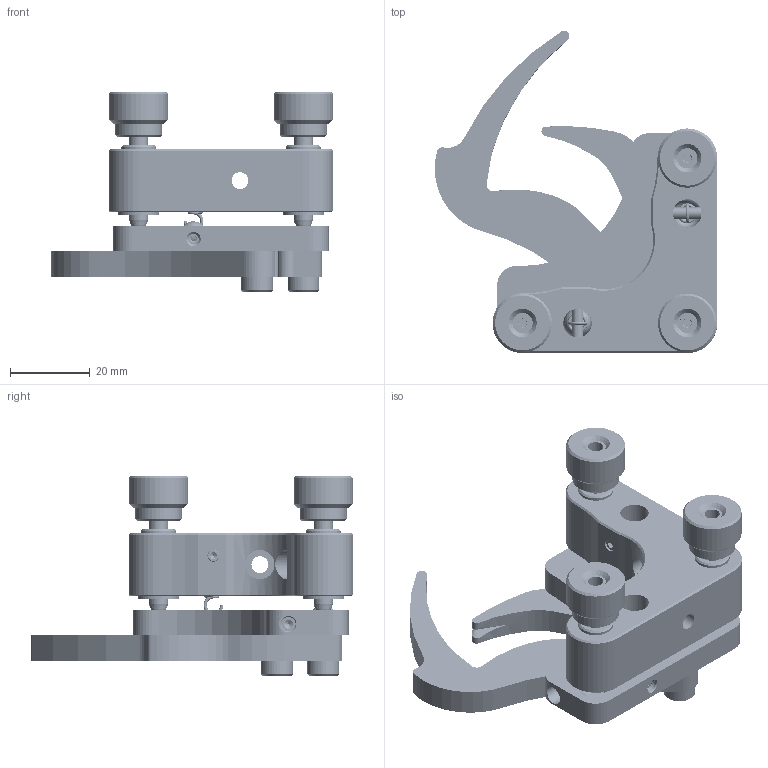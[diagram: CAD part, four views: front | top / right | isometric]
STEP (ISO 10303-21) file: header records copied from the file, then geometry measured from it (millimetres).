
FILE_DESCRIPTION((''),'2;1');
FILE_NAME('TOC-X_ASM','2021-01-09T',('Administrator'),(''),'CREO PARAMETRIC BY PTC INC, 2015290','CREO PARAMETRIC BY PTC INC, 2015290','');
FILE_SCHEMA(('CONFIG_CONTROL_DESIGN'));
Products named in the file (14): TOC-X_A1; TOC-X_A2; TOC-X_A3; TOC-X_A4; TOC-X_A5; SCREW_M5X21; M4X14_HS; M3X14_HS; SCREW_M5X10; TOC-X_A6; SPRING_5X15; SPRING_3X20; SPACER_3X0_5; TOC-X_ASM
Assembly tree (23 placements, depth 2):
  TOC-X_ASM
    TOC-X_A1
    TOC-X_A2
    TOC-X_A3
    TOC-X_A4
    TOC-X_A5  x3
    SCREW_M5X21  x3
    M4X14_HS
    M3X14_HS  x4
    SCREW_M5X10  x2
    TOC-X_A6  x2
    SPRING_5X15  x2
    SPRING_3X20
    SPACER_3X0_5
Bounding box: 70.77 x 80.77 x 50.3 mm (x, y, z)
Volume: 47673.2 mm3; surface area: 29948.4 mm2
Topology: 26 solids, 26 shells, 1558 faces, 4012 edges, 2521 vertices
Faces by surface type: cylinder 804, bspline 268, plane 231, cone 197, sphere 29, torus 24, extrusion 5
Entity records: 68696 total; most frequent: CARTESIAN_POINT 48104, ORIENTED_EDGE 4800, DIRECTION 3284, EDGE_CURVE 2400, VERTEX_POINT 1537, AXIS2_PLACEMENT_3D 1235, B_SPLINE_CURVE_WITH_KNOTS 1136, EDGE_LOOP 985
